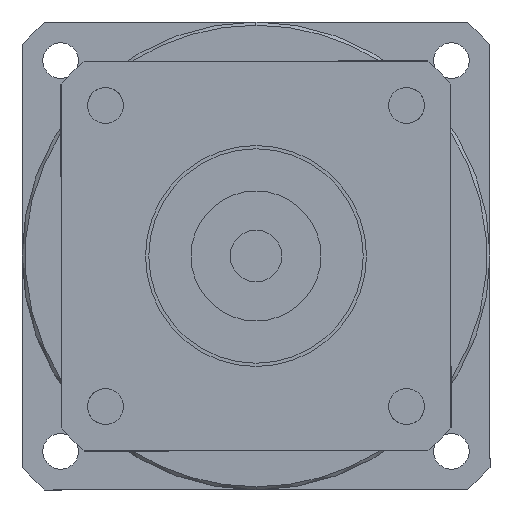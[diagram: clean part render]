
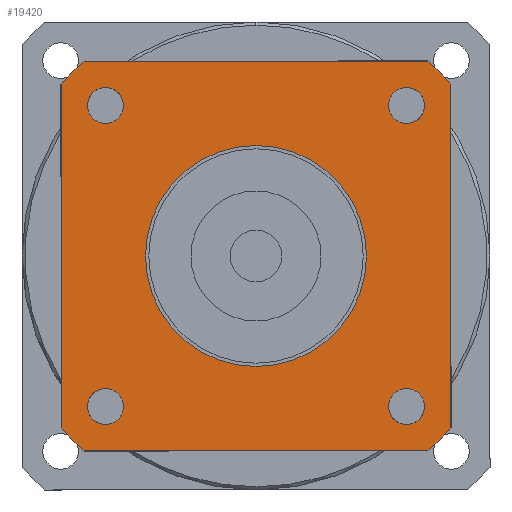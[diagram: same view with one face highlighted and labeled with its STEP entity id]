
A CAD part, left-side view. The second image highlights one B-rep face of the part: STEP entity #19420.
In plain terms, the highlighted planar face has unit normal (-1, 0, 0) as drawn and (0, 0, -1) by its records, which use the part's own axes.
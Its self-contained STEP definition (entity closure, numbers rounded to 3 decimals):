
#17780=CARTESIAN_POINT('',(20.408,23.158,-91.));
#17790=VERTEX_POINT('',#17780);
#17880=CARTESIAN_POINT('',(25.908,23.158,-91.));
#17890=VERTEX_POINT('',#17880);
#17920=CARTESIAN_POINT('',(23.158,23.158,-91.));
#17930=DIRECTION('',(0.,0.,1.));
#17940=DIRECTION('',(-1.,0.,0.));
#17950=AXIS2_PLACEMENT_3D('',#17920,#17930,#17940);
#17960=CIRCLE('',#17950,2.75);
#17970=EDGE_CURVE('',#17890,#17790,#17960,.T.);
#18020=CARTESIAN_POINT('',(-30.,30.,-91.));
#18030=DIRECTION('',(0.,0.,1.));
#18040=DIRECTION('',(-1.,0.,0.));
#18050=AXIS2_PLACEMENT_3D('',#18020,#18030,#18040);
#18060=PLANE('',#18050);
#18070=EDGE_CURVE('',#17790,#17890,#17960,.T.);
#18080=ORIENTED_EDGE('',*,*,#18070,.T.);
#18090=ORIENTED_EDGE('',*,*,#17970,.T.);
#18100=EDGE_LOOP('',(#18090,#18080));
#18110=FACE_BOUND('',#18100,.T.);
#18120=CARTESIAN_POINT('',(-23.158,23.158,-91.));
#18130=DIRECTION('',(0.,0.,1.));
#18140=DIRECTION('',(0.,-1.,0.));
#18150=AXIS2_PLACEMENT_3D('',#18120,#18130,#18140);
#18160=CIRCLE('',#18150,2.75);
#18170=CARTESIAN_POINT('',(-23.158,20.408,-91.));
#18180=VERTEX_POINT('',#18170);
#18190=CARTESIAN_POINT('',(-23.158,25.908,-91.));
#18200=VERTEX_POINT('',#18190);
#18210=EDGE_CURVE('',#18180,#18200,#18160,.T.);
#18220=ORIENTED_EDGE('',*,*,#18210,.T.);
#18230=EDGE_CURVE('',#18200,#18180,#18160,.T.);
#18240=ORIENTED_EDGE('',*,*,#18230,.T.);
#18250=EDGE_LOOP('',(#18240,#18220));
#18260=FACE_BOUND('',#18250,.T.);
#18270=CARTESIAN_POINT('',(-23.158,-23.158,-91.));
#18280=DIRECTION('',(0.,0.,1.));
#18290=DIRECTION('',(1.,0.,0.));
#18300=AXIS2_PLACEMENT_3D('',#18270,#18280,#18290);
#18310=CIRCLE('',#18300,2.75);
#18320=CARTESIAN_POINT('',(-20.408,-23.158,-91.));
#18330=VERTEX_POINT('',#18320);
#18340=CARTESIAN_POINT('',(-25.908,-23.158,-91.));
#18350=VERTEX_POINT('',#18340);
#18360=EDGE_CURVE('',#18330,#18350,#18310,.T.);
#18370=ORIENTED_EDGE('',*,*,#18360,.T.);
#18380=EDGE_CURVE('',#18350,#18330,#18310,.T.);
#18390=ORIENTED_EDGE('',*,*,#18380,.T.);
#18400=EDGE_LOOP('',(#18390,#18370));
#18410=FACE_BOUND('',#18400,.T.);
#18420=CARTESIAN_POINT('',(0.,0.,
-91.));
#18430=DIRECTION('',(0.,0.,1.));
#18440=DIRECTION('',(1.,0.,0.));
#18450=AXIS2_PLACEMENT_3D('',#18420,#18430,#18440);
#18460=CIRCLE('',#18450,17.);
#18470=CARTESIAN_POINT('',(17.,0.,-91.));
#18480=VERTEX_POINT('',#18470);
#18490=CARTESIAN_POINT('',(-17.,0.,-91.));
#18500=VERTEX_POINT('',#18490);
#18510=EDGE_CURVE('',#18480,#18500,#18460,.T.);
#18520=ORIENTED_EDGE('',*,*,#18510,.T.);
#18530=EDGE_CURVE('',#18500,#18480,#18460,.T.);
#18540=ORIENTED_EDGE('',*,*,#18530,.T.);
#18550=EDGE_LOOP('',(#18540,#18520));
#18560=FACE_BOUND('',#18550,.T.);
#18570=CARTESIAN_POINT('',(23.158,-23.158,-91.));
#18580=DIRECTION('',(0.,0.,1.));
#18590=DIRECTION('',(0.,1.,0.));
#18600=AXIS2_PLACEMENT_3D('',#18570,#18580,#18590);
#18610=CIRCLE('',#18600,2.75);
#18620=CARTESIAN_POINT('',(23.158,-20.408,-91.));
#18630=VERTEX_POINT('',#18620);
#18640=CARTESIAN_POINT('',(23.158,-25.908,-91.));
#18650=VERTEX_POINT('',#18640);
#18660=EDGE_CURVE('',#18630,#18650,#18610,.T.);
#18670=ORIENTED_EDGE('',*,*,#18660,.T.);
#18680=EDGE_CURVE('',#18650,#18630,#18610,.T.);
#18690=ORIENTED_EDGE('',*,*,#18680,.T.);
#18700=EDGE_LOOP('',(#18690,#18670));
#18710=FACE_BOUND('',#18700,.T.);
#18720=CARTESIAN_POINT('',(0.,0.,
-91.));
#18730=DIRECTION('',(0.,0.,1.));
#18740=DIRECTION('',(0.,-1.,0.));
#18750=AXIS2_PLACEMENT_3D('',#18720,#18730,#18740);
#18760=CIRCLE('',#18750,40.);
#18770=CARTESIAN_POINT('',(-30.,-26.458,-91.));
#18780=VERTEX_POINT('',#18770);
#18790=CARTESIAN_POINT('',(-26.458,-30.,-91.));
#18800=VERTEX_POINT('',#18790);
#18810=EDGE_CURVE('',#18780,#18800,#18760,.T.);
#18820=ORIENTED_EDGE('',*,*,#18810,.F.);
#18830=CARTESIAN_POINT('',(-30.,-30.,-91.));
#18840=DIRECTION('',(1.,0.,0.));
#18850=VECTOR('',#18840,1000.);
#18860=LINE('',#18830,#18850);
#18870=CARTESIAN_POINT('',(26.458,-30.,-91.));
#18880=VERTEX_POINT('',#18870);
#18890=EDGE_CURVE('',#18800,#18880,#18860,.T.);
#18900=ORIENTED_EDGE('',*,*,#18890,.F.);
#18910=CARTESIAN_POINT('',(0.,0.,
-91.));
#18920=DIRECTION('',(0.,0.,1.));
#18930=DIRECTION('',(0.,-1.,0.));
#18940=AXIS2_PLACEMENT_3D('',#18910,#18920,#18930);
#18950=CIRCLE('',#18940,40.);
#18960=CARTESIAN_POINT('',(30.,-26.458,-91.));
#18970=VERTEX_POINT('',#18960);
#18980=EDGE_CURVE('',#18880,#18970,#18950,.T.);
#18990=ORIENTED_EDGE('',*,*,#18980,.F.);
#19000=CARTESIAN_POINT('',(30.,-30.,-91.));
#19010=DIRECTION('',(0.,1.,0.));
#19020=VECTOR('',#19010,1000.);
#19030=LINE('',#19000,#19020);
#19040=CARTESIAN_POINT('',(30.,26.458,-91.));
#19050=VERTEX_POINT('',#19040);
#19060=EDGE_CURVE('',#18970,#19050,#19030,.T.);
#19070=ORIENTED_EDGE('',*,*,#19060,.F.);
#19080=CARTESIAN_POINT('',(0.,0.,
-91.));
#19090=DIRECTION('',(0.,0.,1.));
#19100=DIRECTION('',(0.,-1.,0.));
#19110=AXIS2_PLACEMENT_3D('',#19080,#19090,#19100);
#19120=CIRCLE('',#19110,40.);
#19130=CARTESIAN_POINT('',(26.458,30.,-91.));
#19140=VERTEX_POINT('',#19130);
#19150=EDGE_CURVE('',#19050,#19140,#19120,.T.);
#19160=ORIENTED_EDGE('',*,*,#19150,.F.);
#19170=CARTESIAN_POINT('',(30.,30.,-91.));
#19180=DIRECTION('',(-1.,0.,0.));
#19190=VECTOR('',#19180,1000.);
#19200=LINE('',#19170,#19190);
#19210=CARTESIAN_POINT('',(-26.458,30.,-91.));
#19220=VERTEX_POINT('',#19210);
#19230=EDGE_CURVE('',#19140,#19220,#19200,.T.);
#19240=ORIENTED_EDGE('',*,*,#19230,.F.);
#19250=CARTESIAN_POINT('',(0.,0.,
-91.));
#19260=DIRECTION('',(0.,0.,1.));
#19270=DIRECTION('',(0.,-1.,0.));
#19280=AXIS2_PLACEMENT_3D('',#19250,#19260,#19270);
#19290=CIRCLE('',#19280,40.);
#19300=CARTESIAN_POINT('',(-30.,26.458,-91.));
#19310=VERTEX_POINT('',#19300);
#19320=EDGE_CURVE('',#19220,#19310,#19290,.T.);
#19330=ORIENTED_EDGE('',*,*,#19320,.F.);
#19340=CARTESIAN_POINT('',(-30.,30.,-91.));
#19350=DIRECTION('',(0.,-1.,0.));
#19360=VECTOR('',#19350,1000.);
#19370=LINE('',#19340,#19360);
#19380=EDGE_CURVE('',#19310,#18780,#19370,.T.);
#19390=ORIENTED_EDGE('',*,*,#19380,.F.);
#19400=EDGE_LOOP('',(#19390,#19330,#19240,#19160,#19070,#18990,#18900,
#18820));
#19410=FACE_OUTER_BOUND('',#19400,.T.);
#19420=ADVANCED_FACE('',(#18110,#18260,#18410,#18560,#18710,#19410),
#18060,.F.);
